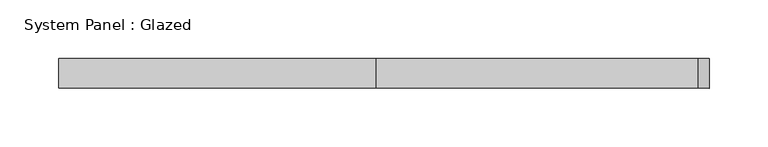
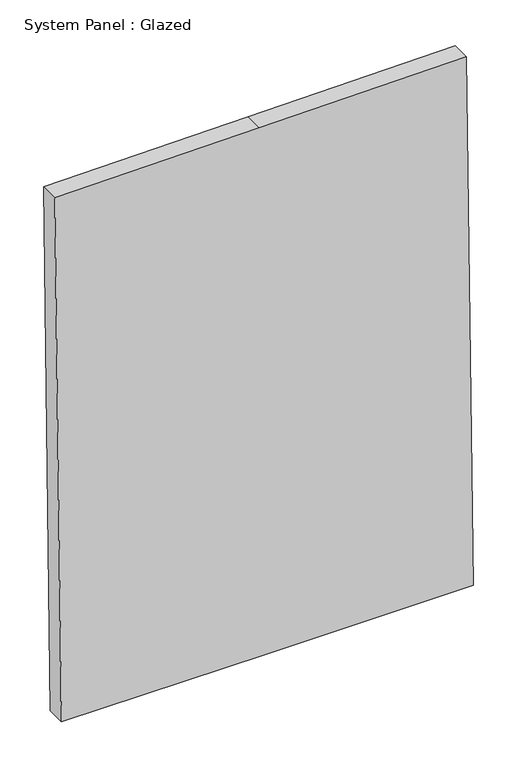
"""IFC4 building model written with IfcOpenShell, lengths in millimetres: plate geometry, System Panel : Glazed."""

from ifc_helpers import new_model, si_unit, frame, origin, place, context, project, spatial, polyline, outline, extrude, source, transform, mapped, element, save


def system_panel_glazed_eac95d79(model_context):
    return source(origin(), model_context, "Body", "SweptSolid", [
        extrude(outline(polyline([(0.0, 3.0908747), (0.8595835, 277.6671494), (744.9237379, 268.3055087), (741.5356333, -6.4947063), (738.1922567, -277.6671494), (0.8608963, -268.7642127), (0.0, 3.0908747)])), frame((0.0, -44.45, 0.0), z_axis=(0.0, 1.0, 0.0), x_axis=(0.0, 0.0, 1.0)), (0.0, 0.0, 1.0), 25.4),
    ])


if __name__ == "__main__":
    model = new_model("IFC4")
    model_context = context("Model", 3, world=origin())
    ifc_project = project(units=[si_unit("LENGTHUNIT", "METRE", prefix="MILLI")], contexts=[model_context])
    site = spatial("IfcSite", under=ifc_project)
    building = spatial("IfcBuilding", under=site)
    placement = place(None, origin())
    system_panel_glazed_shape = system_panel_glazed_eac95d79(model_context)
    element("IfcPlate", 1, ObjectType="System Panel : Glazed", at=placement, inside=building, context=model_context, shape_type="MappedRepresentation", body=[
        mapped(system_panel_glazed_shape, transform((0.0, 0.0, 0.0), x_axis=(1.0, 0.0, 0.0), y_axis=(0.0, 1.0, 0.0), z_axis=(0.0, 0.0, 1.0))),
    ])
    save(model, "model.ifc")
